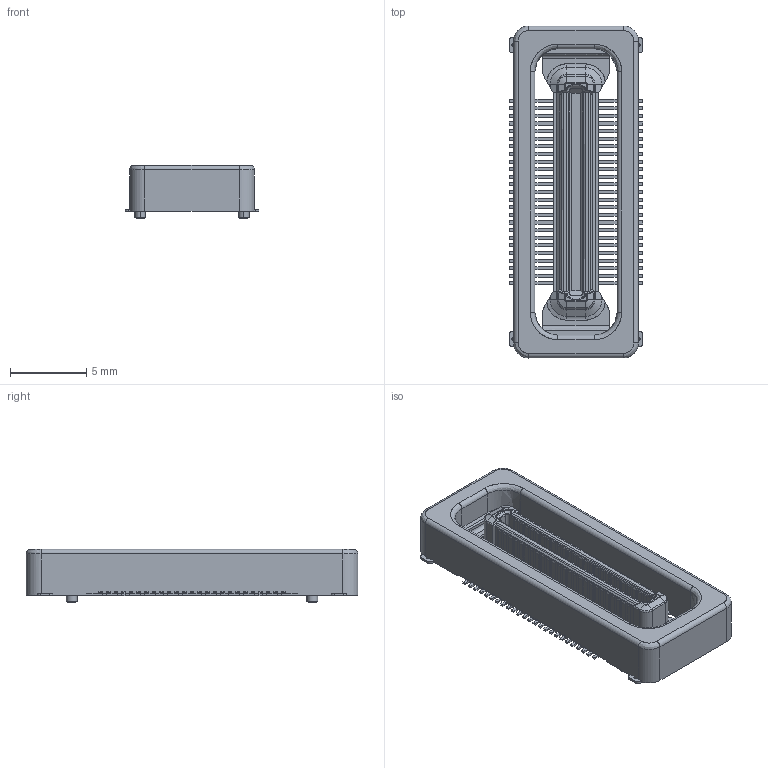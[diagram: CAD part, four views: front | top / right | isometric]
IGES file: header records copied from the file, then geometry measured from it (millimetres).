
Start section: SolidWorks IGES file using analytic representation for surfaces
Global section: file name: Q:\Kamikawa_Hisako\190710\MK_X4_5655_XXX_XXX_829+T\14_5655_XX0_00X_829+T\14_5655_XX0_001_829+T\14_5655_050_001_829+T.IGS; native system: SolidWorks 2017; preprocessor: SolidWorks 2017; author: HISAKO.KAMIKAWA.FJ; date: 190711.110648; units: millimetre
Bounding box: 8.8 x 21.8 x 3.5 mm (x, y, z)
Surface area: 806.9 mm2 (no closed solid volume)
Topology: 0 solids, 0 shells, 2067 faces, 12745 edges, 12745 vertices
Faces by surface type: bspline 1493, revolution 574
